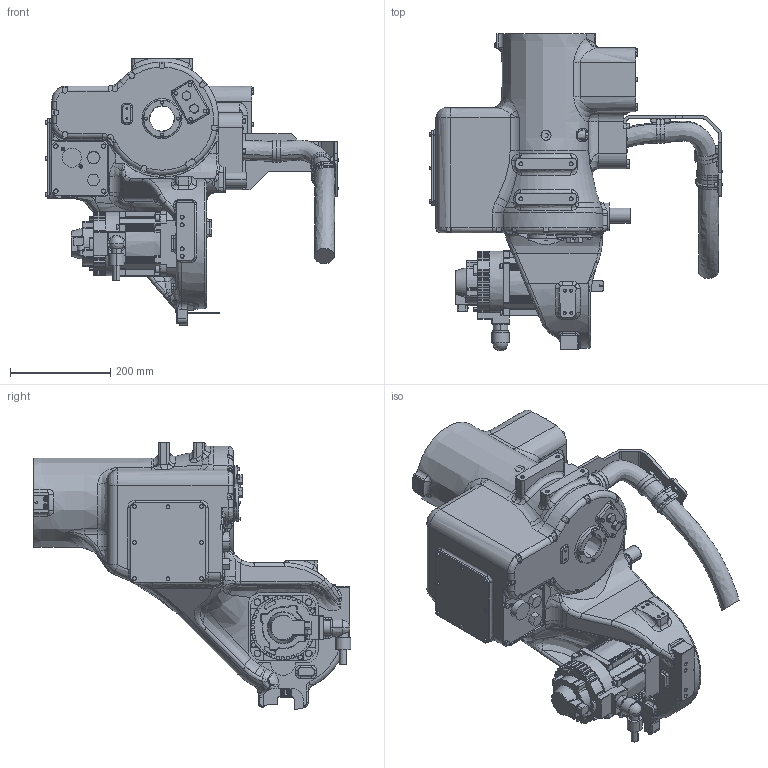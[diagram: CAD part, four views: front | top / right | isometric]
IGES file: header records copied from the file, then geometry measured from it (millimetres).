
Start section:  PTC IGES file: u_axis_gp20hl.igs
Global section: file name: u_axis_gp20hl.igs; native system: Creo Parametric by Parametric Technology Corporation; preprocessor: 2015030; author: ip-naka; organization: Unknown; date: 20190410.110641; units: millimetre
Bounding box: 585.13 x 634 x 533.85 mm (x, y, z)
Volume: 34121904.9 mm3; surface area: 1234877 mm2
Topology: 1 solids, 25 shells, 2389 faces, 6836 edges, 4903 vertices
Faces by surface type: revolution 1217, bspline 1138, extrusion 34
